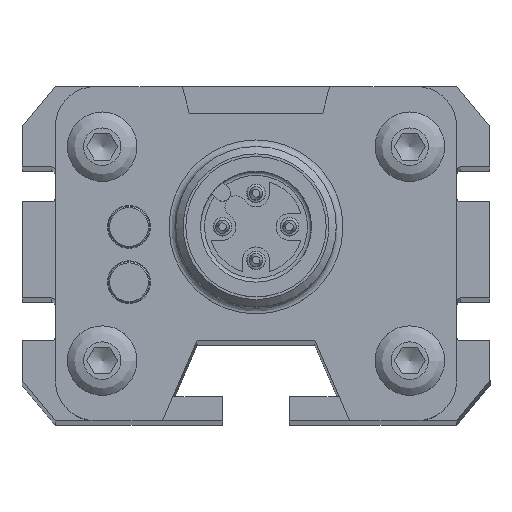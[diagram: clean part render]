
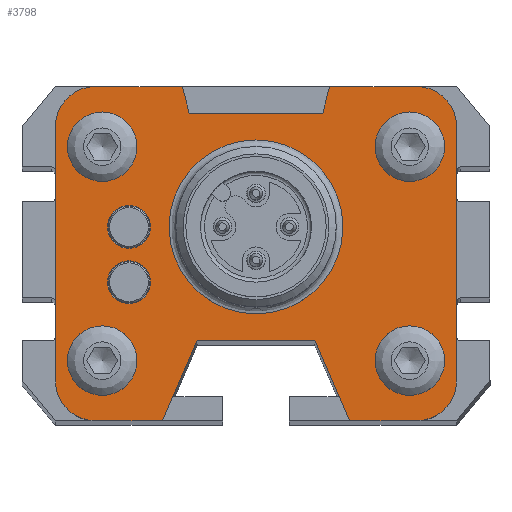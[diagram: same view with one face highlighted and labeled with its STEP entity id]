
A CAD part, top view. The second image highlights one B-rep face of the part: STEP entity #3798.
In plain terms, the highlighted planar face has unit normal (0, 0, 1).
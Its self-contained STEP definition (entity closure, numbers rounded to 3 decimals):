
#1233=CARTESIAN_POINT('',(-8.9,-10.,192.5));
#1234=VERTEX_POINT('',#1233);
#1235=CARTESIAN_POINT('',(-11.5,-10.,192.5));
#1236=DIRECTION('',(0.0,0.0,-1.0));
#1237=DIRECTION('',(-1.0,0.0,0.0));
#1238=AXIS2_PLACEMENT_3D('',#1235,#1236,#1237);
#1239=CIRCLE('',#1238,2.6);
#1240=EDGE_CURVE('',#1234,#1234,#1239,.T.);
#1588=CARTESIAN_POINT('',(-8.9,6.,192.5));
#1589=VERTEX_POINT('',#1588);
#1590=CARTESIAN_POINT('',(-11.5,6.,192.5));
#1591=DIRECTION('',(0.0,0.0,-1.0));
#1592=DIRECTION('',(-1.0,0.0,0.0));
#1593=AXIS2_PLACEMENT_3D('',#1590,#1591,#1592);
#1594=CIRCLE('',#1593,2.6);
#1595=EDGE_CURVE('',#1589,#1589,#1594,.T.);
#2228=CARTESIAN_POINT('',(-15.,-11.5,192.5));
#2229=VERTEX_POINT('',#2228);
#2236=CARTESIAN_POINT('',(-15.,7.5,192.5));
#2237=VERTEX_POINT('',#2236);
#2238=CARTESIAN_POINT('',(-15.,-11.5,192.5));
#2239=DIRECTION('',(0.0,1.0,0.0));
#2240=VECTOR('',#2239,19.);
#2241=LINE('',#2238,#2240);
#2242=EDGE_CURVE('',#2229,#2237,#2241,.T.);
#2577=CARTESIAN_POINT('',(-7.,-14.5,192.5));
#2578=VERTEX_POINT('',#2577);
#2585=CARTESIAN_POINT('',(-12.,-14.5,192.5));
#2586=VERTEX_POINT('',#2585);
#2587=CARTESIAN_POINT('',(-7.,-14.5,192.5));
#2588=DIRECTION('',(-1.0,0.0,0.0));
#2589=VECTOR('',#2588,5.);
#2590=LINE('',#2587,#2589);
#2591=EDGE_CURVE('',#2578,#2586,#2590,.T.);
#2685=CARTESIAN_POINT('',(-4.4,-8.5,192.5));
#2686=VERTEX_POINT('',#2685);
#2693=CARTESIAN_POINT('',(-4.4,-8.5,192.5));
#2694=DIRECTION('',(-0.398,-0.918,0.0));
#2695=VECTOR('',#2694,6.539);
#2696=LINE('',#2693,#2695);
#2697=EDGE_CURVE('',#2686,#2578,#2696,.T.);
#2718=CARTESIAN_POINT('',(4.4,-8.5,192.5));
#2719=VERTEX_POINT('',#2718);
#2726=CARTESIAN_POINT('',(4.4,-8.5,192.5));
#2727=DIRECTION('',(-1.0,0.0,0.0));
#2728=VECTOR('',#2727,8.8);
#2729=LINE('',#2726,#2728);
#2730=EDGE_CURVE('',#2719,#2686,#2729,.T.);
#2829=CARTESIAN_POINT('',(-12.,10.5,192.5));
#2830=VERTEX_POINT('',#2829);
#2837=CARTESIAN_POINT('',(-5.5,10.5,192.5));
#2838=VERTEX_POINT('',#2837);
#2839=CARTESIAN_POINT('',(-12.,10.5,192.5));
#2840=DIRECTION('',(1.0,0.0,0.0));
#2841=VECTOR('',#2840,6.5);
#2842=LINE('',#2839,#2841);
#2843=EDGE_CURVE('',#2830,#2838,#2842,.T.);
#2861=CARTESIAN_POINT('',(5.5,10.5,192.5));
#2862=VERTEX_POINT('',#2861);
#2869=CARTESIAN_POINT('',(12.,10.5,192.5));
#2870=VERTEX_POINT('',#2869);
#2871=CARTESIAN_POINT('',(5.5,10.5,192.5));
#2872=DIRECTION('',(1.0,0.0,0.0));
#2873=VECTOR('',#2872,6.5);
#2874=LINE('',#2871,#2873);
#2875=EDGE_CURVE('',#2862,#2870,#2874,.T.);
#2917=CARTESIAN_POINT('',(7.,-14.5,192.5));
#2918=VERTEX_POINT('',#2917);
#2925=CARTESIAN_POINT('',(7.,-14.5,192.5));
#2926=DIRECTION('',(-0.398,0.918,0.0));
#2927=VECTOR('',#2926,6.539);
#2928=LINE('',#2925,#2927);
#2929=EDGE_CURVE('',#2918,#2719,#2928,.T.);
#3025=CARTESIAN_POINT('',(12.,-14.5,192.5));
#3026=VERTEX_POINT('',#3025);
#3033=CARTESIAN_POINT('',(12.,-14.5,192.5));
#3034=DIRECTION('',(-1.0,0.0,0.0));
#3035=VECTOR('',#3034,5.0);
#3036=LINE('',#3033,#3035);
#3037=EDGE_CURVE('',#3026,#2918,#3036,.T.);
#3360=CARTESIAN_POINT('',(15.,7.5,192.5));
#3361=VERTEX_POINT('',#3360);
#3368=CARTESIAN_POINT('',(15.,-11.5,192.5));
#3369=VERTEX_POINT('',#3368);
#3370=CARTESIAN_POINT('',(15.,7.5,192.5));
#3371=DIRECTION('',(0.0,-1.0,0.0));
#3372=VECTOR('',#3371,19.);
#3373=LINE('',#3370,#3372);
#3374=EDGE_CURVE('',#3361,#3369,#3373,.T.);
#3671=CARTESIAN_POINT('',(7.879,-1.49,192.5));
#3672=DIRECTION('',(0.0,0.0,1.0));
#3673=DIRECTION('',(1.0,0.0,0.0));
#3674=AXIS2_PLACEMENT_3D('',#3671,#3672,#3673);
#3675=PLANE('',#3674);
#3676=CARTESIAN_POINT('',(5.,8.5,192.5));
#3677=VERTEX_POINT('',#3676);
#3678=CARTESIAN_POINT('',(5.,8.5,192.5));
#3679=DIRECTION('',(0.243,0.97,0.0));
#3680=VECTOR('',#3679,2.062);
#3681=LINE('',#3678,#3680);
#3682=EDGE_CURVE('',#3677,#2862,#3681,.T.);
#3683=ORIENTED_EDGE('',*,*,#3682,.F.);
#3684=CARTESIAN_POINT('',(-5.,8.5,192.5));
#3685=VERTEX_POINT('',#3684);
#3686=CARTESIAN_POINT('',(-5.,8.5,192.5));
#3687=DIRECTION('',(1.0,0.0,0.0));
#3688=VECTOR('',#3687,10.);
#3689=LINE('',#3686,#3688);
#3690=EDGE_CURVE('',#3685,#3677,#3689,.T.);
#3691=ORIENTED_EDGE('',*,*,#3690,.F.);
#3692=CARTESIAN_POINT('',(-5.5,10.5,192.5));
#3693=DIRECTION('',(0.243,-0.97,0.0));
#3694=VECTOR('',#3693,2.062);
#3695=LINE('',#3692,#3694);
#3696=EDGE_CURVE('',#2838,#3685,#3695,.T.);
#3697=ORIENTED_EDGE('',*,*,#3696,.F.);
#3698=ORIENTED_EDGE('',*,*,#2843,.F.);
#3699=CARTESIAN_POINT('',(-12.,7.5,192.5));
#3700=DIRECTION('',(0.0,0.0,-1.0));
#3701=DIRECTION('',(0.0,1.0,0.0));
#3702=AXIS2_PLACEMENT_3D('',#3699,#3700,#3701);
#3703=CIRCLE('',#3702,3.);
#3704=EDGE_CURVE('',#2237,#2830,#3703,.T.);
#3705=ORIENTED_EDGE('',*,*,#3704,.F.);
#3706=ORIENTED_EDGE('',*,*,#2242,.F.);
#3707=CARTESIAN_POINT('',(-12.,-11.5,192.5));
#3708=DIRECTION('',(0.0,0.0,-1.0));
#3709=DIRECTION('',(-1.0,0.0,0.0));
#3710=AXIS2_PLACEMENT_3D('',#3707,#3708,#3709);
#3711=CIRCLE('',#3710,3.);
#3712=EDGE_CURVE('',#2586,#2229,#3711,.T.);
#3713=ORIENTED_EDGE('',*,*,#3712,.F.);
#3714=ORIENTED_EDGE('',*,*,#2591,.F.);
#3715=ORIENTED_EDGE('',*,*,#2697,.F.);
#3716=ORIENTED_EDGE('',*,*,#2730,.F.);
#3717=ORIENTED_EDGE('',*,*,#2929,.F.);
#3718=ORIENTED_EDGE('',*,*,#3037,.F.);
#3719=CARTESIAN_POINT('',(12.,-11.5,192.5));
#3720=DIRECTION('',(0.0,0.0,-1.0));
#3721=DIRECTION('',(0.0,-1.0,0.0));
#3722=AXIS2_PLACEMENT_3D('',#3719,#3720,#3721);
#3723=CIRCLE('',#3722,3.);
#3724=EDGE_CURVE('',#3369,#3026,#3723,.T.);
#3725=ORIENTED_EDGE('',*,*,#3724,.F.);
#3726=ORIENTED_EDGE('',*,*,#3374,.F.);
#3727=CARTESIAN_POINT('',(12.,7.5,192.5));
#3728=DIRECTION('',(0.0,0.0,-1.0));
#3729=DIRECTION('',(1.0,0.0,0.0));
#3730=AXIS2_PLACEMENT_3D('',#3727,#3728,#3729);
#3731=CIRCLE('',#3730,3.);
#3732=EDGE_CURVE('',#2870,#3361,#3731,.T.);
#3733=ORIENTED_EDGE('',*,*,#3732,.F.);
#3734=ORIENTED_EDGE('',*,*,#2875,.F.);
#3735=EDGE_LOOP('',(#3683,#3691,#3697,#3698,#3705,#3706,#3713,#3714,#3715,#3716,#3717,#3718,#3725,#3726,#3733,#3734));
#3736=FACE_OUTER_BOUND('',#3735,.T.);
#3737=CARTESIAN_POINT('',(6.5,0.,192.5));
#3738=VERTEX_POINT('',#3737);
#3739=CARTESIAN_POINT('',(0.,0.,192.5));
#3740=DIRECTION('',(0.0,0.0,-1.0));
#3741=DIRECTION('',(-1.0,0.0,0.0));
#3742=AXIS2_PLACEMENT_3D('',#3739,#3740,#3741);
#3743=CIRCLE('',#3742,6.5);
#3744=EDGE_CURVE('',#3738,#3738,#3743,.T.);
#3745=ORIENTED_EDGE('',*,*,#3744,.T.);
#3746=EDGE_LOOP('',(#3745));
#3747=FACE_BOUND('',#3746,.T.);
#3748=ORIENTED_EDGE('',*,*,#1240,.T.);
#3749=EDGE_LOOP('',(#3748));
#3750=FACE_BOUND('',#3749,.T.);
#3751=CARTESIAN_POINT('',(14.1,-10.,192.5));
#3752=VERTEX_POINT('',#3751);
#3753=CARTESIAN_POINT('',(11.5,-10.,192.5));
#3754=DIRECTION('',(0.0,0.0,-1.0));
#3755=DIRECTION('',(-1.0,0.0,0.0));
#3756=AXIS2_PLACEMENT_3D('',#3753,#3754,#3755);
#3757=CIRCLE('',#3756,2.6);
#3758=EDGE_CURVE('',#3752,#3752,#3757,.T.);
#3759=ORIENTED_EDGE('',*,*,#3758,.T.);
#3760=EDGE_LOOP('',(#3759));
#3761=FACE_BOUND('',#3760,.T.);
#3762=CARTESIAN_POINT('',(14.1,6.,192.5));
#3763=VERTEX_POINT('',#3762);
#3764=CARTESIAN_POINT('',(11.5,6.,192.5));
#3765=DIRECTION('',(0.0,0.0,-1.0));
#3766=DIRECTION('',(-1.0,0.0,0.0));
#3767=AXIS2_PLACEMENT_3D('',#3764,#3765,#3766);
#3768=CIRCLE('',#3767,2.6);
#3769=EDGE_CURVE('',#3763,#3763,#3768,.T.);
#3770=ORIENTED_EDGE('',*,*,#3769,.T.);
#3771=EDGE_LOOP('',(#3770));
#3772=FACE_BOUND('',#3771,.T.);
#3773=ORIENTED_EDGE('',*,*,#1595,.T.);
#3774=EDGE_LOOP('',(#3773));
#3775=FACE_BOUND('',#3774,.T.);
#3776=CARTESIAN_POINT('',(-7.899,-4.139,192.5));
#3777=VERTEX_POINT('',#3776);
#3778=CARTESIAN_POINT('',(-9.499,-4.139,192.5));
#3779=DIRECTION('',(0.0,0.0,-1.0));
#3780=DIRECTION('',(-1.0,0.0,0.0));
#3781=AXIS2_PLACEMENT_3D('',#3778,#3779,#3780);
#3782=CIRCLE('',#3781,1.6);
#3783=EDGE_CURVE('',#3777,#3777,#3782,.T.);
#3784=ORIENTED_EDGE('',*,*,#3783,.T.);
#3785=EDGE_LOOP('',(#3784));
#3786=FACE_BOUND('',#3785,.T.);
#3787=CARTESIAN_POINT('',(-7.899,0.,192.5));
#3788=VERTEX_POINT('',#3787);
#3789=CARTESIAN_POINT('',(-9.499,0.,192.5));
#3790=DIRECTION('',(0.0,0.0,-1.0));
#3791=DIRECTION('',(-1.0,0.0,0.0));
#3792=AXIS2_PLACEMENT_3D('',#3789,#3790,#3791);
#3793=CIRCLE('',#3792,1.6);
#3794=EDGE_CURVE('',#3788,#3788,#3793,.T.);
#3795=ORIENTED_EDGE('',*,*,#3794,.T.);
#3796=EDGE_LOOP('',(#3795));
#3797=FACE_BOUND('',#3796,.T.);
#3798=ADVANCED_FACE('',(#3736,#3747,#3750,#3761,#3772,#3775,#3786,#3797),#3675,.T.);
